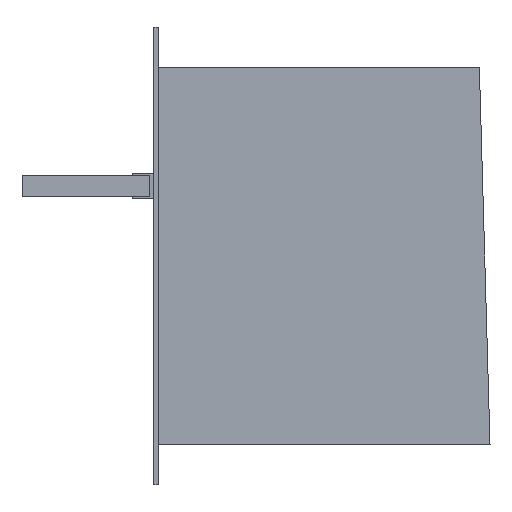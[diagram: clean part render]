
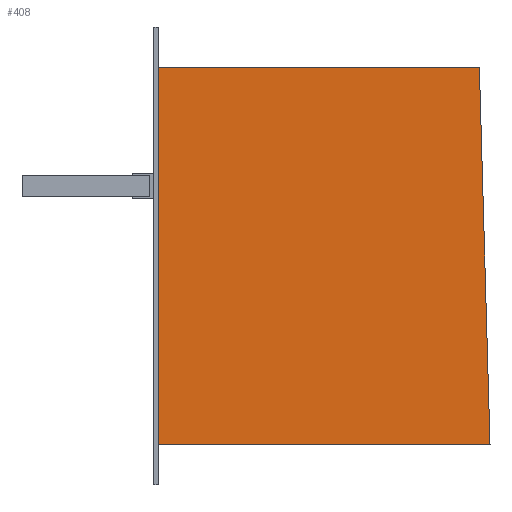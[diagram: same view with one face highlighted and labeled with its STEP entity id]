
A CAD part, left-side view. The second image highlights one B-rep face of the part: STEP entity #408.
In plain terms, the highlighted planar face has unit normal (-1, 0, 0).
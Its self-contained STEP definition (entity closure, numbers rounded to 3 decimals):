
#59 = EDGE_LOOP ( 'NONE', ( #1331, #292, #1797, #368 ) ) ;
#85 = DIRECTION ( 'NONE',  ( 0., 0., -1. ) ) ;
#92 = LINE ( 'NONE', #1405, #109 ) ;
#109 = VECTOR ( 'NONE', #85, 1000. ) ;
#155 = CARTESIAN_POINT ( 'NONE',  ( -1541., 0., -88.5 ) ) ;
#216 = VECTOR ( 'NONE', #1640, 1000. ) ;
#292 = ORIENTED_EDGE ( 'NONE', *, *, #397, .T. ) ;
#349 = LINE ( 'NONE', #1104, #1244 ) ;
#368 = ORIENTED_EDGE ( 'NONE', *, *, #693, .T. ) ;
#397 = EDGE_CURVE ( 'NONE', #1029, #1140, #349, .T. ) ;
#408 = ADVANCED_FACE ( 'NONE', ( #1870 ), #510, .F. ) ;
#425 = AXIS2_PLACEMENT_3D ( 'NONE', #1860, #796, #953 ) ;
#503 = DIRECTION ( 'NONE',  ( 0., 0.028, 1. ) ) ;
#510 = PLANE ( 'NONE',  #425 ) ;
#594 = VERTEX_POINT ( 'NONE', #1753 ) ;
#611 = VECTOR ( 'NONE', #1803, 1000. ) ;
#693 = EDGE_CURVE ( 'NONE', #594, #829, #92, .T. ) ;
#710 = LINE ( 'NONE', #1330, #611 ) ;
#796 = DIRECTION ( 'NONE',  ( 1., 0., 0. ) ) ;
#829 = VERTEX_POINT ( 'NONE', #1341 ) ;
#842 = EDGE_CURVE ( 'NONE', #1140, #594, #710, .T. ) ;
#880 = LINE ( 'NONE', #155, #216 ) ;
#953 = DIRECTION ( 'NONE',  ( 0., 0., -1. ) ) ;
#1029 = VERTEX_POINT ( 'NONE', #1429 ) ;
#1104 = CARTESIAN_POINT ( 'NONE',  ( -1541., -151., 88.5 ) ) ;
#1140 = VERTEX_POINT ( 'NONE', #1763 ) ;
#1244 = VECTOR ( 'NONE', #503, 1000. ) ;
#1330 = CARTESIAN_POINT ( 'NONE',  ( -1541., 0., 88.5 ) ) ;
#1331 = ORIENTED_EDGE ( 'NONE', *, *, #1957, .T. ) ;
#1341 = CARTESIAN_POINT ( 'NONE',  ( -1541., 0., -88.5 ) ) ;
#1405 = CARTESIAN_POINT ( 'NONE',  ( -1541., 0., 88.5 ) ) ;
#1429 = CARTESIAN_POINT ( 'NONE',  ( -1541., -156., -88.5 ) ) ;
#1640 = DIRECTION ( 'NONE',  ( 0., -1., 0. ) ) ;
#1753 = CARTESIAN_POINT ( 'NONE',  ( -1541., 0., 88.5 ) ) ;
#1763 = CARTESIAN_POINT ( 'NONE',  ( -1541., -151., 88.5 ) ) ;
#1797 = ORIENTED_EDGE ( 'NONE', *, *, #842, .T. ) ;
#1803 = DIRECTION ( 'NONE',  ( 0., 1., 0. ) ) ;
#1860 = CARTESIAN_POINT ( 'NONE',  ( -1541., 2., 107.5 ) ) ;
#1870 = FACE_OUTER_BOUND ( 'NONE', #59, .T. ) ;
#1957 = EDGE_CURVE ( 'NONE', #829, #1029, #880, .T. ) ;
